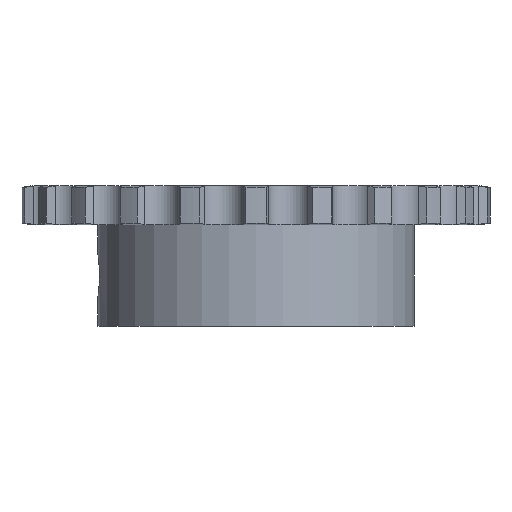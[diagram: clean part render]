
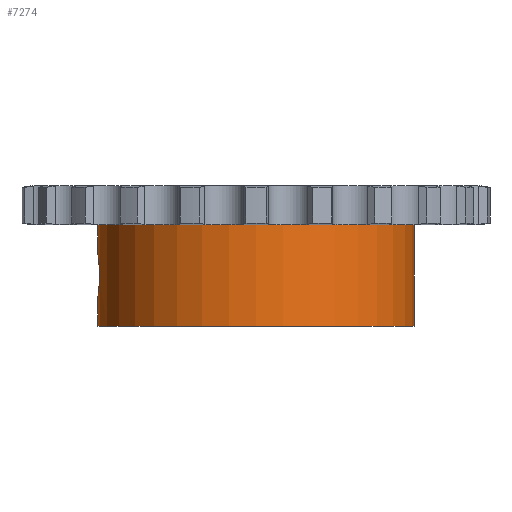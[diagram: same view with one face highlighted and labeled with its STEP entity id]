
A CAD part, front view. The second image highlights one B-rep face of the part: STEP entity #7274.
In plain terms, the highlighted cylindrical face has radius 45 mm (diameter 90 mm), a partial arc.
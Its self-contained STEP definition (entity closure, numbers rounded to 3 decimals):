
#1227=CARTESIAN_POINT('',(0.,0.,-5.55));
#1228=DIRECTION('',(0.,0.,1.));
#1229=DIRECTION('',(-1.,0.,0.));
#1230=AXIS2_PLACEMENT_3D('',#1227,#1228,#1229);
#3582=CARTESIAN_POINT('',(-45.,0.,
-14.));
#3607=DIRECTION('',(0.,0.,1.));
#3608=VECTOR('',#3607,28.9);
#3609=CARTESIAN_POINT('',(45.,0.,-34.45));
#3610=LINE('',#3609,#3608);
#3736=CARTESIAN_POINT('',(-45.,0.,
-14.));
#3737=CARTESIAN_POINT('',(-45.,-0.226,
-14.));
#3738=CARTESIAN_POINT('',(-44.996,-0.707,
-14.026));
#3739=CARTESIAN_POINT('',(-44.979,-1.435,
-14.151));
#3740=CARTESIAN_POINT('',(-44.95,-2.166,
-14.372));
#3741=CARTESIAN_POINT('',(-44.911,-2.863,
-14.679));
#3742=CARTESIAN_POINT('',(-44.864,-3.516,
-15.07));
#3743=CARTESIAN_POINT('',(-44.813,-4.114,
-15.537));
#3744=CARTESIAN_POINT('',(-44.761,-4.645,
-16.071));
#3745=CARTESIAN_POINT('',(-44.71,-5.103,
-16.662));
#3746=CARTESIAN_POINT('',(-44.665,-5.483,
-17.303));
#3747=CARTESIAN_POINT('',(-44.627,-5.78,-17.985));
#3748=CARTESIAN_POINT('',(-44.6,-5.988,
-18.694));
#3749=CARTESIAN_POINT('',(-44.585,-6.098,
-19.371));
#3750=CARTESIAN_POINT('',(-44.582,-6.119,
-19.806));
#3751=CARTESIAN_POINT('',(-44.582,-6.119,
-20.));
#3756=DIRECTION('',(0.,0.,1.));
#3757=VECTOR('',#3756,8.45);
#3758=CARTESIAN_POINT('',(-45.,0.,
-14.));
#3759=LINE('',#3758,#3757);
#3763=DIRECTION('',(0.,0.,1.));
#3764=VECTOR('',#3763,8.45);
#3765=CARTESIAN_POINT('',(-45.,0.,-34.45));
#3766=LINE('',#3765,#3764);
#3770=CARTESIAN_POINT('',(-44.582,-6.119,
-20.));
#3771=CARTESIAN_POINT('',(-44.582,-6.119,
-20.206));
#3772=CARTESIAN_POINT('',(-44.585,-6.096,
-20.651));
#3773=CARTESIAN_POINT('',(-44.601,-5.981,
-21.337));
#3774=CARTESIAN_POINT('',(-44.629,-5.77,
-22.042));
#3775=CARTESIAN_POINT('',(-44.667,-5.471,
-22.721));
#3776=CARTESIAN_POINT('',(-44.712,-5.09,
-23.358));
#3777=CARTESIAN_POINT('',(-44.762,-4.631,
-23.945));
#3778=CARTESIAN_POINT('',(-44.814,-4.1,
-24.474));
#3779=CARTESIAN_POINT('',(-44.865,-3.503,
-24.938));
#3780=CARTESIAN_POINT('',(-44.911,-2.852,
-25.326));
#3781=CARTESIAN_POINT('',(-44.95,-2.157,
-25.631));
#3782=CARTESIAN_POINT('',(-44.979,-1.429,
-25.85));
#3783=CARTESIAN_POINT('',(-44.996,-0.704,
-25.974));
#3784=CARTESIAN_POINT('',(-45.,-0.225,
-26.));
#3785=CARTESIAN_POINT('',(-45.,0.,
-26.));
#3798=CARTESIAN_POINT('',(0.,0.,-34.45));
#3799=DIRECTION('',(0.,0.,-1.));
#3800=DIRECTION('',(1.,0.,0.));
#3801=AXIS2_PLACEMENT_3D('',#3798,#3799,#3800);
#4203=CARTESIAN_POINT('',(-45.,0.,-34.45));
#4204=CARTESIAN_POINT('',(45.,0.,-34.45));
#4205=VERTEX_POINT('',#4203);
#4206=VERTEX_POINT('',#4204);
#4207=CARTESIAN_POINT('',(45.,0.,-5.55));
#4208=VERTEX_POINT('',#4207);
#4209=CARTESIAN_POINT('',(-45.,0.,-5.55));
#4210=VERTEX_POINT('',#4209);
#4456=VERTEX_POINT('',#3582);
#4459=VERTEX_POINT('',#3751);
#4461=VERTEX_POINT('',#3785);
#7258=CARTESIAN_POINT('',(0.,0.,5.55));
#7259=DIRECTION('',(0.,0.,1.));
#7260=DIRECTION('',(1.,0.,0.));
#7261=AXIS2_PLACEMENT_3D('',#7258,#7259,#7260);
#7262=CYLINDRICAL_SURFACE('',#7261,45.);
#7263=ORIENTED_EDGE('',*,*,#7248,.F.);
#7264=ORIENTED_EDGE('',*,*,#6787,.T.);
#7265=ORIENTED_EDGE('',*,*,#5730,.T.);
#7266=ORIENTED_EDGE('',*,*,#6784,.F.);
#7268=ORIENTED_EDGE('',*,*,#7267,.T.);
#7269=ORIENTED_EDGE('',*,*,#6780,.T.);
#7271=ORIENTED_EDGE('',*,*,#7270,.F.);
#7272=EDGE_LOOP('',(#7263,#7264,#7265,#7266,#7268,#7269,#7271));
#7273=FACE_OUTER_BOUND('',#7272,.F.);
#7274=ADVANCED_FACE('',(#7273),#7262,.T.);
#1231=CIRCLE('',#1230,45.);
#3752=B_SPLINE_CURVE_WITH_KNOTS('',3,(#3736,#3737,#3738,#3739,#3740,#3741,#3742,
#3743,#3744,#3745,#3746,#3747,#3748,#3749,#3750,#3751),.UNSPECIFIED.,.F.,.F.,(4,
1,1,1,1,1,1,1,1,1,1,1,1,4),(0.,0.07,0.149,
0.228,0.306,0.385,0.464,
0.542,0.621,0.7,0.778,
0.857,0.936,1.),.UNSPECIFIED.);
#3786=B_SPLINE_CURVE_WITH_KNOTS('',3,(#3770,#3771,#3772,#3773,#3774,#3775,#3776,
#3777,#3778,#3779,#3780,#3781,#3782,#3783,#3784,#3785),.UNSPECIFIED.,.F.,.F.,(4,
1,1,1,1,1,1,1,1,1,1,1,1,4),(0.,0.068,0.147,
0.225,0.303,0.382,0.46,
0.538,0.617,0.695,0.773,
0.852,0.93,1.),.UNSPECIFIED.);
#3802=CIRCLE('',#3801,45.);
#5730=EDGE_CURVE('',#4210,#4208,#1231,.T.);
#6780=EDGE_CURVE('',#4205,#4461,#3766,.T.);
#6784=EDGE_CURVE('',#4206,#4208,#3610,.T.);
#6787=EDGE_CURVE('',#4456,#4210,#3759,.T.);
#7248=EDGE_CURVE('',#4456,#4459,#3752,.T.);
#7267=EDGE_CURVE('',#4206,#4205,#3802,.T.);
#7270=EDGE_CURVE('',#4459,#4461,#3786,.T.);
